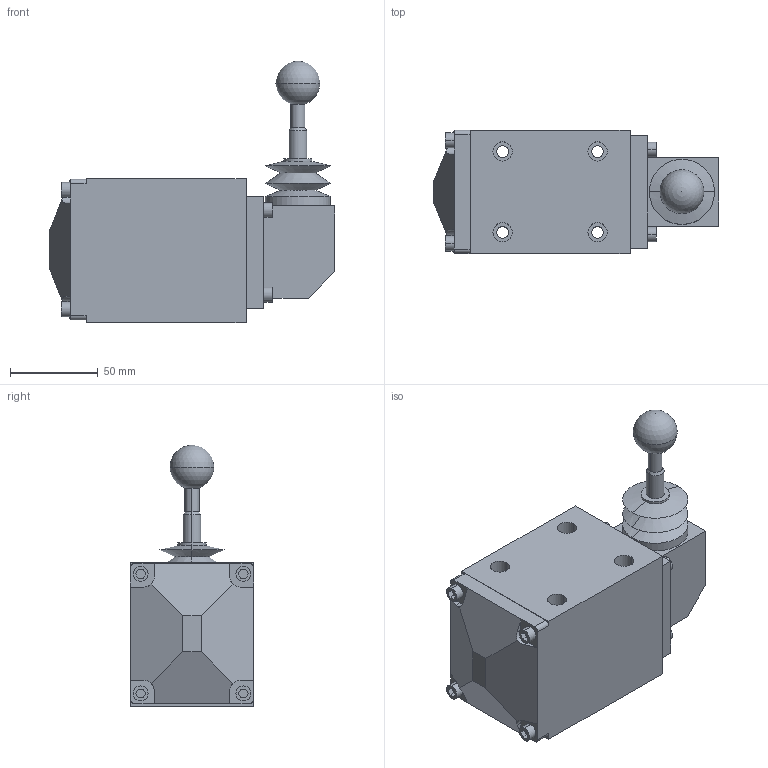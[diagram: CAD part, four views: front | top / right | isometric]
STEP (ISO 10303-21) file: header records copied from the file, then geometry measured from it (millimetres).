
FILE_DESCRIPTION (( 'STEP AP203' ), '1' );
FILE_NAME ('FS-03儂迮葩弇忒雄概.STEP', '2020-11-12T04:51:31', ( 'chen' ), ( '' ), 'SwSTEP 2.0', 'SolidWorks 2018', '' );
FILE_SCHEMA (( 'CONFIG_CONTROL_DESIGN' ));
Length unit declared in the file: millimetre
Products named in the file (1): FS-03儂迮葩弇忒雄概
Bounding box: 162.5 x 70 x 148.8 mm (x, y, z)
Volume: 724991.2 mm3; surface area: 70085.4 mm2
Topology: 1 solids, 1 shells, 199 faces, 467 edges, 304 vertices
Faces by surface type: plane 117, cylinder 68, cone 12, sphere 2
Entity records: 5754 total; most frequent: DIRECTION 999, CARTESIAN_POINT 989, ORIENTED_EDGE 926, EDGE_CURVE 463, AXIS2_PLACEMENT_3D 344, LINE 311, VECTOR 311, VERTEX_POINT 302
